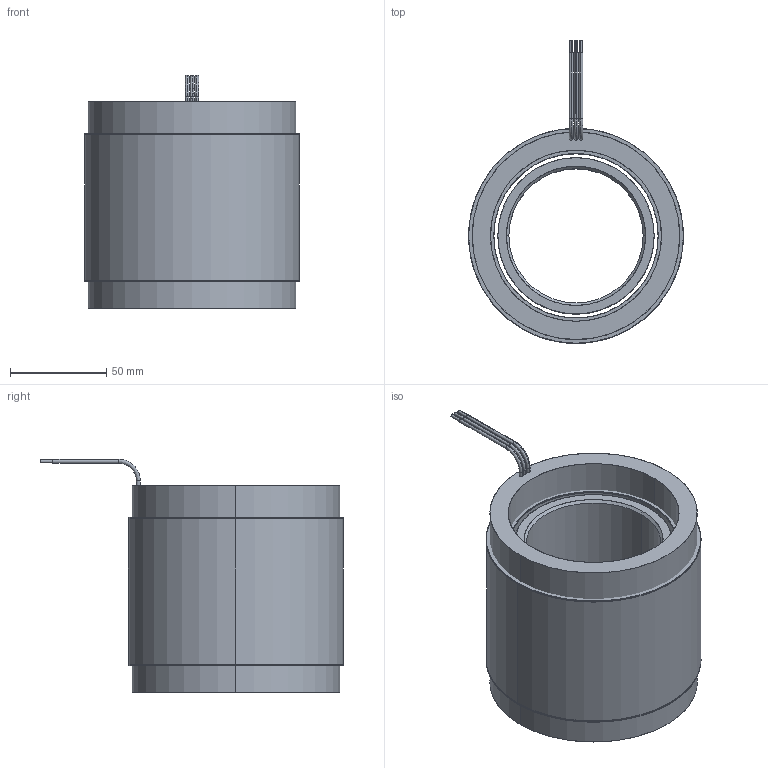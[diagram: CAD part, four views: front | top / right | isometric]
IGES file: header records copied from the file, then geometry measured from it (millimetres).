
Start section: SolidWorks IGES file using analytic representation for surfaces
Global section: file name: \\fs01.aveox.local\user documents\eng\My Documents\STANDARD STATOR ROTOR SETS\Standard rotor and stator set released\4.4 inch stator diameter\6100255-05.IGS; native system: SolidWorks 2016; preprocessor: SolidWorks 2016; author: eng; date: 191111.094231; units: millimetre
Bounding box: 111.76 x 157.42 x 121.41 mm (x, y, z)
Surface area: 200711.1 mm2 (no closed solid volume)
Topology: 0 solids, 0 shells, 76 faces, 2256 edges, 2256 vertices
Faces by surface type: revolution 50, bspline 26
